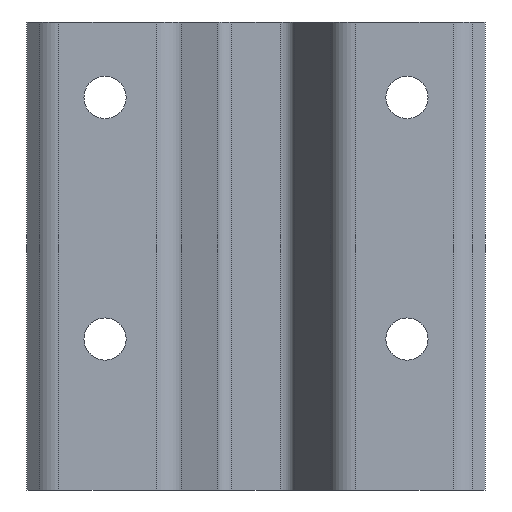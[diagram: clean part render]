
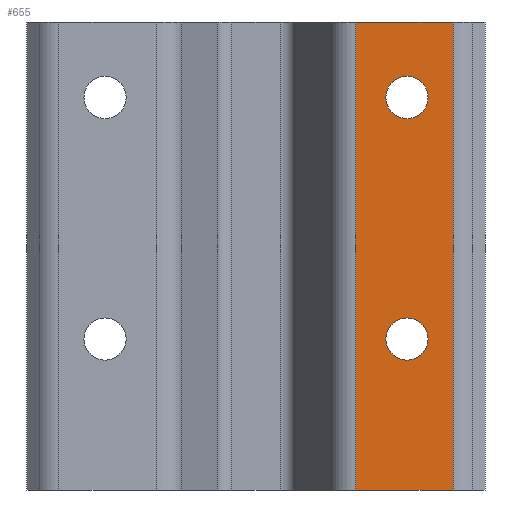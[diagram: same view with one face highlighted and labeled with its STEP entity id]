
A CAD part, front view. The second image highlights one B-rep face of the part: STEP entity #655.
In plain terms, the highlighted planar face has unit normal (0, -1, 0).
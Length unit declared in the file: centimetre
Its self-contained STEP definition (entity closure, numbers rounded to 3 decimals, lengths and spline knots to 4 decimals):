
#18=FACE_BOUND('',#88,.T.);
#19=FACE_BOUND('',#89,.T.);
#29=PLANE('',#701);
#51=FACE_OUTER_BOUND('',#87,.T.);
#87=EDGE_LOOP('',(#476,#477,#478,#479));
#88=EDGE_LOOP('',(#480));
#89=EDGE_LOOP('',(#481));
#137=LINE('',#1006,#201);
#138=LINE('',#1010,#202);
#139=LINE('',#1012,#203);
#140=LINE('',#1013,#204);
#201=VECTOR('',#805,1.);
#202=VECTOR('',#810,1.);
#203=VECTOR('',#811,1.);
#204=VECTOR('',#812,1.);
#256=CIRCLE('',#702,7.);
#257=CIRCLE('',#703,7.);
#298=VERTEX_POINT('',#1003);
#299=VERTEX_POINT('',#1005);
#300=VERTEX_POINT('',#1009);
#301=VERTEX_POINT('',#1011);
#302=VERTEX_POINT('',#1014);
#303=VERTEX_POINT('',#1016);
#370=EDGE_CURVE('',#299,#298,#137,.T.);
#372=EDGE_CURVE('',#298,#300,#138,.T.);
#373=EDGE_CURVE('',#301,#300,#139,.T.);
#374=EDGE_CURVE('',#301,#299,#140,.T.);
#375=EDGE_CURVE('',#302,#302,#256,.T.);
#376=EDGE_CURVE('',#303,#303,#257,.T.);
#476=ORIENTED_EDGE('',*,*,#372,.T.);
#477=ORIENTED_EDGE('',*,*,#373,.F.);
#478=ORIENTED_EDGE('',*,*,#374,.T.);
#479=ORIENTED_EDGE('',*,*,#370,.T.);
#480=ORIENTED_EDGE('',*,*,#375,.T.);
#481=ORIENTED_EDGE('',*,*,#376,.T.);
#655=ADVANCED_FACE('',(#51,#18,#19),#29,.T.);
#701=AXIS2_PLACEMENT_3D('',#1008,#808,#809);
#702=AXIS2_PLACEMENT_3D('',#1015,#813,#814);
#703=AXIS2_PLACEMENT_3D('',#1017,#815,#816);
#805=DIRECTION('',(0.,0.,1.));
#808=DIRECTION('center_axis',(0.,-1.,0.));
#809=DIRECTION('ref_axis',(1.,0.,0.));
#810=DIRECTION('',(-1.,0.,0.));
#811=DIRECTION('',(0.,0.,1.));
#812=DIRECTION('',(1.,0.,0.));
#813=DIRECTION('center_axis',(0.,1.,0.));
#814=DIRECTION('ref_axis',(1.,0.,0.));
#815=DIRECTION('center_axis',(0.,1.,0.));
#816=DIRECTION('ref_axis',(1.,0.,0.));
#1003=CARTESIAN_POINT('',(105.2945,356.3958,155.));
#1005=CARTESIAN_POINT('',(105.2945,356.3958,0.));
#1006=CARTESIAN_POINT('',(105.2945,356.3958,0.));
#1008=CARTESIAN_POINT('Origin',(90.0424,356.3958,47.));
#1009=CARTESIAN_POINT('',(73.1502,356.3958,155.));
#1010=CARTESIAN_POINT('',(73.1502,356.3958,155.));
#1011=CARTESIAN_POINT('',(73.1502,356.3958,0.));
#1012=CARTESIAN_POINT('',(73.1502,356.3958,0.));
#1013=CARTESIAN_POINT('',(73.1502,356.3958,0.));
#1014=CARTESIAN_POINT('',(83.0424,356.3958,50.));
#1015=CARTESIAN_POINT('Origin',(90.0424,356.3958,50.));
#1016=CARTESIAN_POINT('',(83.0424,356.3958,130.));
#1017=CARTESIAN_POINT('Origin',(90.0424,356.3958,130.));
